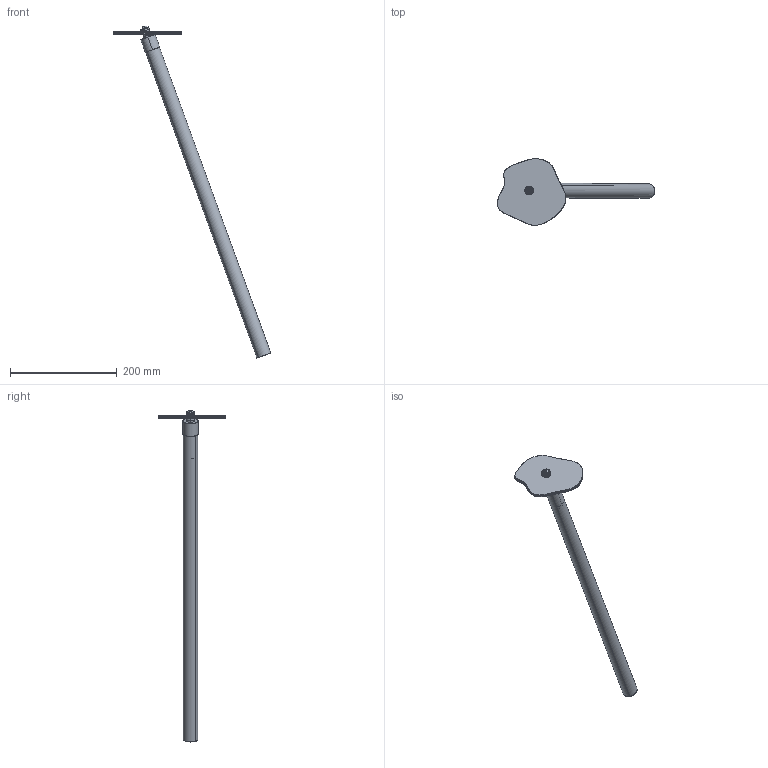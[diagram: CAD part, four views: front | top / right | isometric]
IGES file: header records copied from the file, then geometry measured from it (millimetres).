
Start section: SolidWorks IGES file using analytic representation for surfaces
Global section: file name: \\SERVER3\Design\_NEWDE~1\_DESIG~1\AAI\MODULA~1\SOLIDW~1\DEMONS~1\25DBF2~1.ASS\MODULA~1\497A0~1.TUB\TUBETO~2\Flat End Connector to Angle Washers to Surface.IGS; native system: SolidWorks 2013; preprocessor: SolidWorks 2013; author: tbraun; date: 131114.135519; units: inch
Bounding box: 294.87 x 124.76 x 622.02 mm (x, y, z)
Surface area: 188891 mm2 (no closed solid volume)
Topology: 0 solids, 0 shells, 268 faces, 4718 edges, 4718 vertices
Faces by surface type: revolution 213, bspline 55
